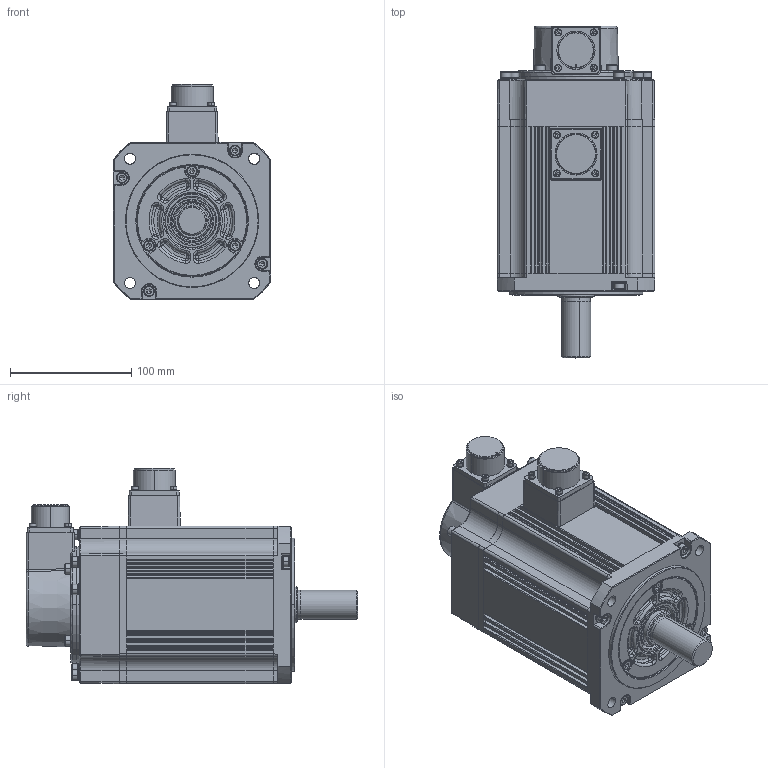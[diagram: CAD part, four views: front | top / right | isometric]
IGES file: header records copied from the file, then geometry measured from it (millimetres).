
Global section: file name: 7HNo Iges File Name specified; native system: AutoDesk Inventor R12.0; preprocessor: AutoDesk Inventor Iges Exporter R12.0; author: No Author specified; organization: No Organization specified; date: 20160715.194351; units: millimetre
Bounding box: 130.1 x 273.9 x 177.8 mm (x, y, z)
Volume: 2995360.7 mm3; surface area: 235855.8 mm2
Topology: 70 solids, 70 shells, 2416 faces, 5643 edges, 3366 vertices
Faces by surface type: plane 780, revolution 735, cylinder 389, torus 316, bspline 101, cone 86, sphere 9
